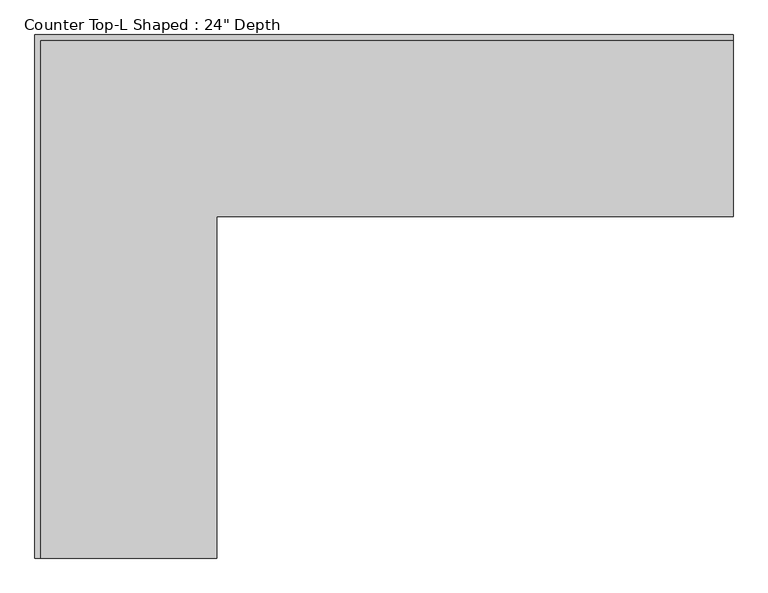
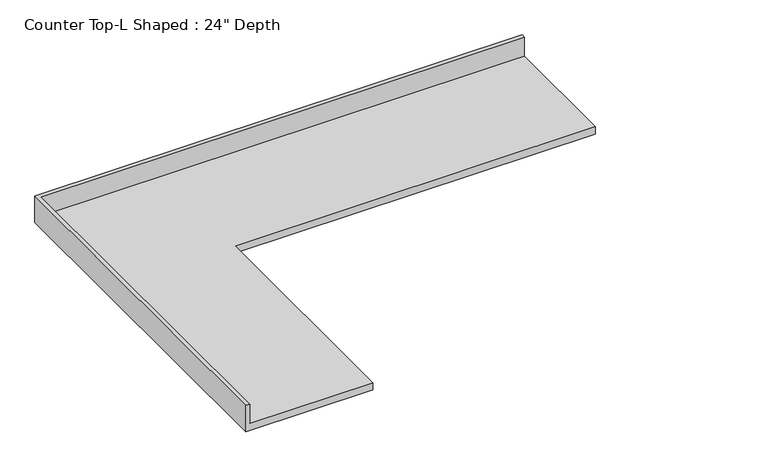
"""IFC4 building model written with IfcOpenShell, lengths in millimetres: furniture geometry."""

from ifc_helpers import new_model, si_unit, origin, place, context, project, spatial, faceted_brep, source, transform, mapped, element, save


def furniture_1b3be55e(model_context):
    return source(origin(), model_context, "Body", "Brep", [
        faceted_brep([(-565.4622951, -1828.8, 914.4), (-565.4622951, -635.0, 914.4), (1237.9377049, -635.0, 914.4), (1237.9377049, -19.05, 914.4), (-1181.4122951, -19.05, 914.4), (-1181.4122951, -1828.8, 914.4), (1237.9377049, 0.0, 876.3), (1237.9377049, -635.0, 876.3), (-565.4622951, -635.0, 876.3), (-565.4622951, -1828.8, 876.3), (-1200.4622951, -1828.8, 876.3), (-1200.4622951, 0.0, 876.3), (-1200.4622951, 0.0, 1016.0), (1237.9377049, 0.0, 1016.0), (-1200.4622951, -1828.8, 1016.0), (-1181.4122951, -1828.8, 1016.0), (1237.9377049, -19.05, 1016.0), (-1181.4122951, -19.05, 1016.0)], [[[0, 1, 2, 3, 4, 5]], [[6, 7, 8, 9, 10, 11]], [[6, 11, 12, 13]], [[11, 10, 14, 12]], [[14, 10, 9, 0, 5, 15]], [[1, 0, 9, 8]], [[2, 1, 8, 7]], [[7, 6, 13, 16, 3, 2]], [[12, 14, 15, 17, 16, 13]], [[3, 16, 17, 4]], [[17, 15, 5, 4]]]),
    ])


if __name__ == "__main__":
    model = new_model("IFC4")
    model_context = context("Model", 3, world=origin())
    ifc_project = project(units=[si_unit("LENGTHUNIT", "METRE", prefix="MILLI")], contexts=[model_context])
    site = spatial("IfcSite", under=ifc_project)
    building = spatial("IfcBuilding", under=site)
    placement = place(None, origin())
    furniture_shape = furniture_1b3be55e(model_context)
    element("IfcFurniture", 1, ObjectType="Counter Top-L Shaped : 24\" Depth", at=placement, inside=building, context=model_context, shape_type="MappedRepresentation", body=[
        mapped(furniture_shape, transform((0.0, 0.0, 0.0), x_axis=(1.0, 0.0, 0.0), y_axis=(0.0, 1.0, 0.0), z_axis=(0.0, 0.0, 1.0))),
    ])
    save(model, "model.ifc")
